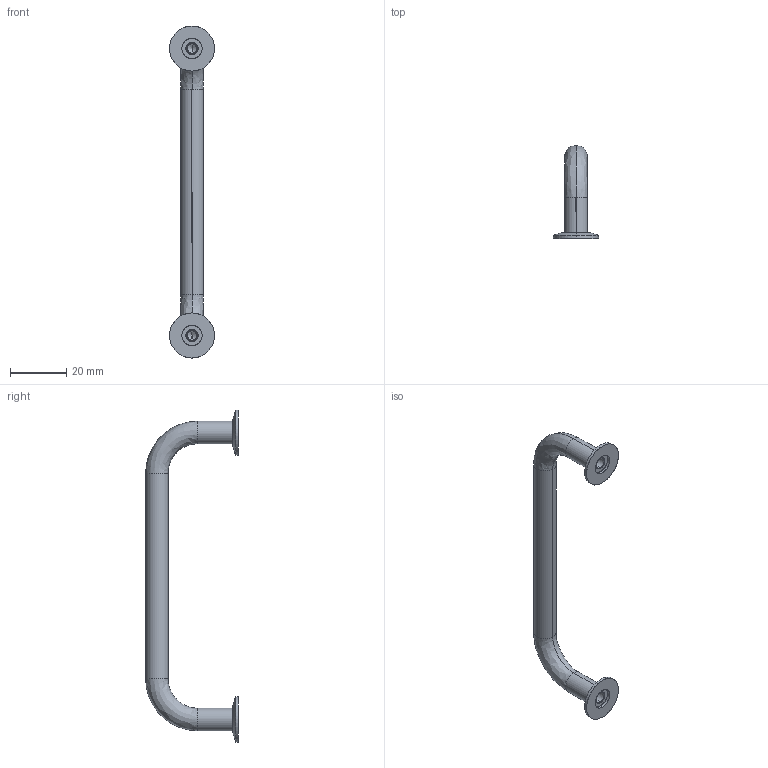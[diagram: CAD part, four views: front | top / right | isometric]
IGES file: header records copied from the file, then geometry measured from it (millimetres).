
Start section: SolidWorks IGES file using analytic representation for surfaces
Global section: file name: C:\Documents and Settings\IANO\Desktop\Temp File\Process pending\PCN pending\78700_v2\78700_v2_20170116_IGES\78700.W0110.igs; native system: SolidWorks 2009; preprocessor: SolidWorks 2009; author: IANO; date: 170310.095707; units: millimetre
Bounding box: 16 x 33 x 118 mm (x, y, z)
Surface area: 4796.7 mm2 (no closed solid volume)
Topology: 0 solids, 0 shells, 52 faces, 808 edges, 804 vertices
Faces by surface type: revolution 38, bspline 14
